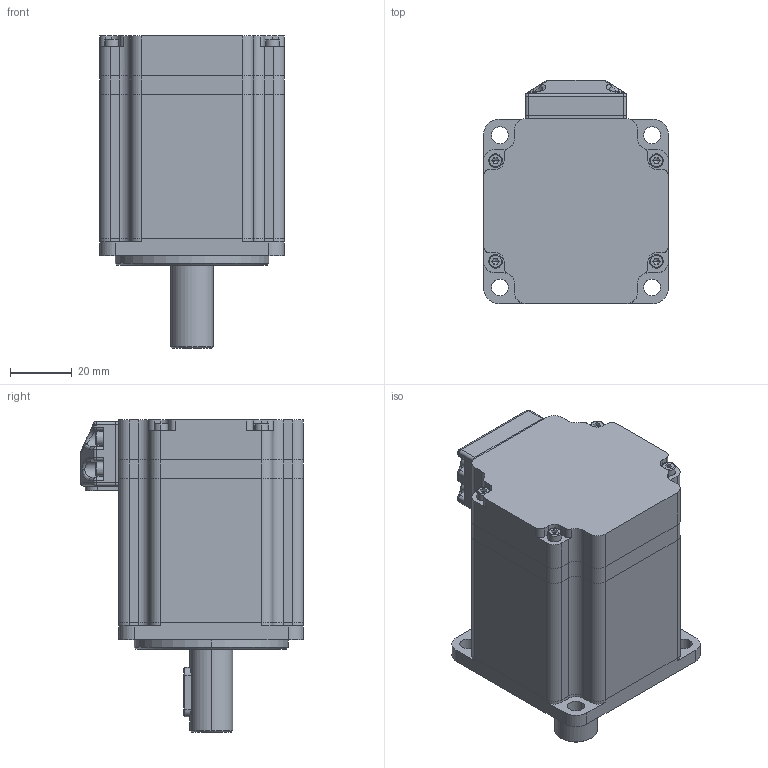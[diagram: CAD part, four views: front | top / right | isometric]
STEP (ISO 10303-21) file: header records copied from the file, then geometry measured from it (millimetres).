
FILE_DESCRIPTION (( 'STEP AP203' ), '1' );
FILE_NAME ('淕儂蚾饜.STEP', '2021-10-23T05:33:26', ( '' ), ( '' ), 'SwSTEP 2.0', 'SolidWorks 2018', '' );
FILE_SCHEMA (( 'CONFIG_CONTROL_DESIGN' ));
Length unit declared in the file: millimetre
Products named in the file (1): 淕儂蚾饜
Bounding box: 60 x 72.5 x 101.5 mm (x, y, z)
Volume: 113456.9 mm3; surface area: 72745.6 mm2
Topology: 21 solids, 21 shells, 1195 faces, 3309 edges, 2075 vertices
Faces by surface type: cylinder 452, plane 416, cone 148, torus 99, sphere 60, bspline 20
Entity records: 39211 total; most frequent: CARTESIAN_POINT 9099, DIRECTION 6513, ORIENTED_EDGE 6250, EDGE_CURVE 3125, AXIS2_PLACEMENT_3D 2566, VERTEX_POINT 1999, CIRCLE 1390, VECTOR 1381
